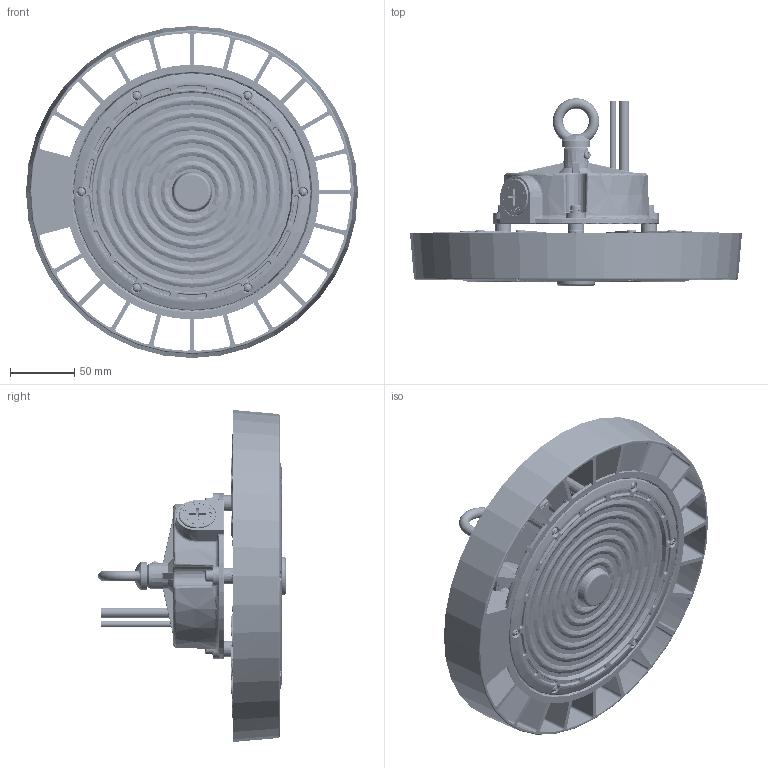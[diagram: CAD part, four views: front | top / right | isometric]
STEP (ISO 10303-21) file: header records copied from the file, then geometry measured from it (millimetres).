
FILE_DESCRIPTION((''),'2;1');
FILE_NAME('UFO-100N_ASM_4_ASM','2026-04-30T16:55:04',('Administrator'),(''),'CREO PARAMETRIC BY PTC INC, 2024063','CREO PARAMETRIC BY PTC INC, 2024063','');
FILE_SCHEMA(('CONFIG_CONTROL_DESIGN'));
Length unit declared in the file: millimetre
Products named in the file (27): UFO-100N_1; M5X1_HXQ_2; PG7-12_7; DK184-GGX-GJQ_3_1_1; DK184-GGX-LJB_5_1; M3CHENTOULUOSI_1_3; M3X8_PAN_TOU_2_2_3; DK184-90D_1_1; DK184-GGX_ASM_10_ASM_1_ASM; DK184-GGX_ASM_ASM_1_ASM; NONE-47352; NONE-71452; Q7-_STEP00_ASM; Q7-PHILIPS0001; Q7-0002; Q7-00; Q7-__STEP0001; Q7-0004; Q7-0001_ASM; M10-14DIAOHUAN-1_1; M5X20-1_1_1; M5X20-1_1_2; M5X20-1_1_3; M5X20-1_1_ASM; M4X10_1; 3D0001_ASM; UFO-100N_ASM_4_ASM
Assembly tree (40 placements, depth 5):
  UFO-100N_ASM_4_ASM
    UFO-100N_1
    M5X1_HXQ_2
    PG7-12_7
    DK184-GGX_ASM_ASM_1_ASM
      DK184-GGX_ASM_10_ASM_1_ASM
        DK184-GGX-GJQ_3_1_1
        DK184-GGX-LJB_5_1
        M3CHENTOULUOSI_1_3  x7
        M3X8_PAN_TOU_2_2_3  x6
        DK184-90D_1_1
    3D0001_ASM
      Q7-0001_ASM
        Q7-_STEP00_ASM
          NONE-47352
          NONE-71452
        Q7-PHILIPS0001
        Q7-0002
        Q7-00
        Q7-__STEP0001
        Q7-0004
      M10-14DIAOHUAN-1_1
      M5X20-1_1_ASM  x4
        M5X20-1_1_1
        M5X20-1_1_2
        M5X20-1_1_3
      M4X10_1
Bounding box: 257.4 x 145.4 x 257.4 mm (x, y, z)
Volume: 501446.4 mm3; surface area: 468113.4 mm2
Topology: 245 solids, 248 shells, 6273 faces, 15566 edges, 9693 vertices
Faces by surface type: plane 2355, cylinder 1268, bspline 963, torus 744, cone 609, sphere 211, extrusion 69, revolution 54
Entity records: 287607 total; most frequent: CARTESIAN_POINT 161437, ORIENTED_EDGE 27256, DIRECTION 24224, EDGE_CURVE 13637, AXIS2_PLACEMENT_3D 9235, VERTEX_POINT 8593, EDGE_LOOP 5882, VECTOR 5700
